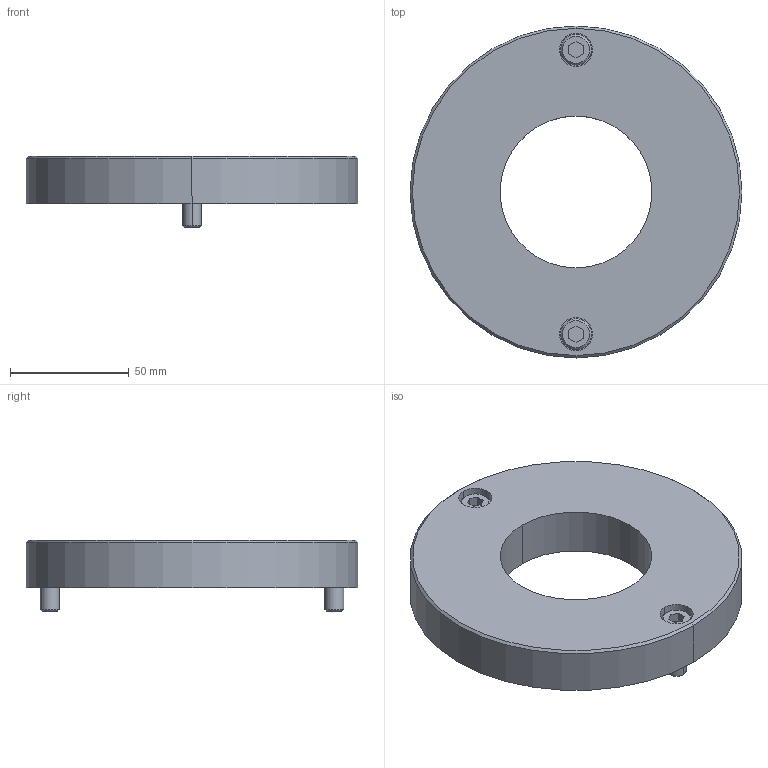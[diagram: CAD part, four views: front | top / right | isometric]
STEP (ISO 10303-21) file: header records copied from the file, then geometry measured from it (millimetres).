
FILE_DESCRIPTION((''),'2;1');
FILE_NAME('','2010-09-08T15:25:32+09:00',('misumi'),(''),'M/STEP i/f 1R2-14','CADmeister v5.1','');
FILE_SCHEMA(('AUTOMOTIVE_DESIGN'));
Length unit declared in the file: millimetre
Products named in the file (1): DSEB60-20-N
Bounding box: 140 x 140 x 30 mm (x, y, z)
Volume: 242811.1 mm3; surface area: 40393.8 mm2
Topology: 3 solids, 3 shells, 54 faces, 118 edges, 76 vertices
Faces by surface type: plane 24, cylinder 20, cone 10
Entity records: 1613 total; most frequent: DIRECTION 280, CARTESIAN_POINT 247, ORIENTED_EDGE 232, EDGE_CURVE 116, AXIS2_PLACEMENT_3D 107, VERTEX_POINT 74, LINE 66, VECTOR 66
